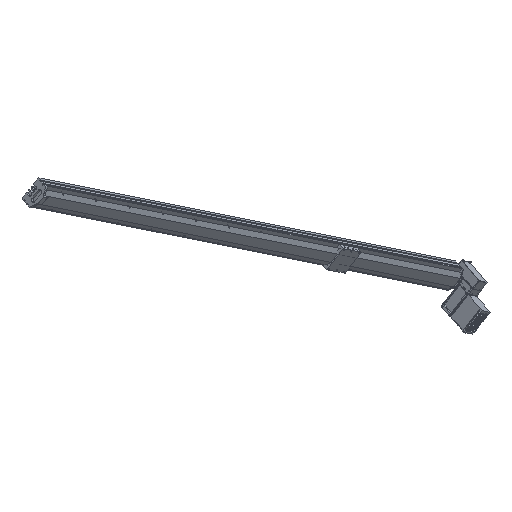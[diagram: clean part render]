
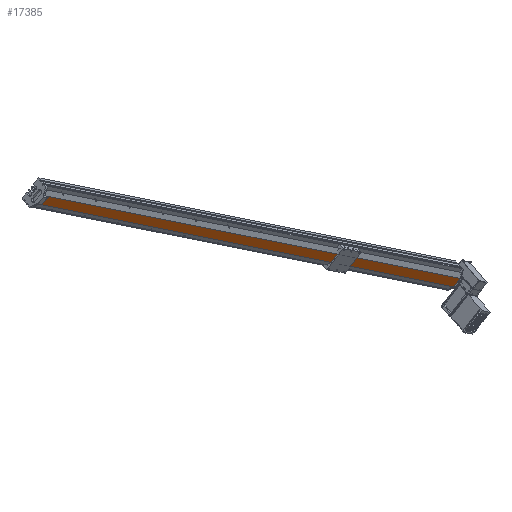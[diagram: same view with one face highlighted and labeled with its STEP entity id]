
A CAD part, top view. The second image highlights one B-rep face of the part: STEP entity #17385.
In plain terms, the highlighted planar face has unit normal (0.555, -0.657, 0.51) as drawn and (0, 1, 0) by its records, which use the part's own axes.
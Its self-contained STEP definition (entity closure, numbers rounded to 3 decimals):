
#10488 = DIRECTION ( 'NONE',  ( 0., 0., -1. ) ) ;
#10489 = VECTOR ( 'NONE', #10488, 1000. ) ;
#10490 = CARTESIAN_POINT ( 'NONE',  ( 20., 61.75, 2500. ) ) ;
#10594 = LINE ( 'NONE', #10490, #10489 ) ;
#10791 = CARTESIAN_POINT ( 'NONE',  ( 20., 61.75, 5.114 ) ) ;
#10823 = CARTESIAN_POINT ( 'NONE',  ( 20., 61.75, 0. ) ) ;
#12844 = CARTESIAN_POINT ( 'NONE',  ( -20., 61.75, 2500. ) ) ;
#12845 = LINE ( 'NONE', #12844, #12851 ) ;
#12850 = DIRECTION ( 'NONE',  ( 0., 0., -1. ) ) ;
#12851 = VECTOR ( 'NONE', #12850, 1000. ) ;
#12917 = CARTESIAN_POINT ( 'NONE',  ( 20., 61.75, 2500. ) ) ;
#12923 = CARTESIAN_POINT ( 'NONE',  ( 20., 61.75, 0. ) ) ;
#12924 = LINE ( 'NONE', #12923, #12972 ) ;
#12944 = DIRECTION ( 'NONE',  ( 0., 0., -1. ) ) ;
#12945 = VECTOR ( 'NONE', #12944, 1000. ) ;
#12946 = CARTESIAN_POINT ( 'NONE',  ( 20., 61.75, 2500. ) ) ;
#12947 = LINE ( 'NONE', #12946, #12945 ) ;
#12954 = DIRECTION ( 'NONE',  ( 0., 0., -1. ) ) ;
#12955 = DIRECTION ( 'NONE',  ( 0., -1., 0. ) ) ;
#12956 = LINE ( 'NONE', #13025, #13024 ) ;
#12963 = AXIS2_PLACEMENT_3D ( 'NONE', #12973, #12955, #12954 ) ;
#12968 = FACE_OUTER_BOUND ( 'NONE', #17362, .T. ) ;
#12969 = PLANE ( 'NONE',  #12963 ) ;
#12971 = DIRECTION ( 'NONE',  ( -1., 0., 0. ) ) ;
#12972 = VECTOR ( 'NONE', #12971, 1000. ) ;
#12973 = CARTESIAN_POINT ( 'NONE',  ( 20., 61.75, 2500. ) ) ;
#12975 = CARTESIAN_POINT ( 'NONE',  ( -20., 61.75, 0. ) ) ;
#13001 = CARTESIAN_POINT ( 'NONE',  ( -20., 61.75, 2500. ) ) ;
#13022 = DIRECTION ( 'NONE',  ( -1., 0., 0. ) ) ;
#13024 = VECTOR ( 'NONE', #13022, 1000. ) ;
#13025 = CARTESIAN_POINT ( 'NONE',  ( 20., 61.75, 2500. ) ) ;
#16313 = VERTEX_POINT ( 'NONE', #10823 ) ;
#16365 = EDGE_CURVE ( 'NONE', #16382, #16313, #10594, .T. ) ;
#16382 = VERTEX_POINT ( 'NONE', #10791 ) ;
#17339 = ORIENTED_EDGE ( 'NONE', *, *, #17404, .F. ) ;
#17362 = EDGE_LOOP ( 'NONE', ( #17434, #17433, #17339, #17425, #17441 ) ) ;
#17370 = VERTEX_POINT ( 'NONE', #12917 ) ;
#17376 = EDGE_CURVE ( 'NONE', #16313, #17377, #12924, .T. ) ;
#17377 = VERTEX_POINT ( 'NONE', #12975 ) ;
#17385 = ADVANCED_FACE ( 'NONE', ( #12968 ), #12969, .F. ) ;
#17388 = EDGE_CURVE ( 'NONE', #17370, #16382, #12947, .T. ) ;
#17404 = EDGE_CURVE ( 'NONE', #17370, #17454, #12956, .T. ) ;
#17425 = ORIENTED_EDGE ( 'NONE', *, *, #17388, .T. ) ;
#17432 = EDGE_CURVE ( 'NONE', #17454, #17377, #12845, .T. ) ;
#17433 = ORIENTED_EDGE ( 'NONE', *, *, #17432, .F. ) ;
#17434 = ORIENTED_EDGE ( 'NONE', *, *, #17376, .T. ) ;
#17441 = ORIENTED_EDGE ( 'NONE', *, *, #16365, .T. ) ;
#17454 = VERTEX_POINT ( 'NONE', #13001 ) ;
